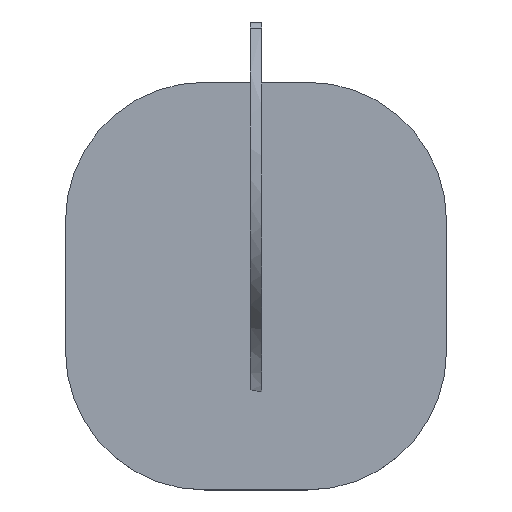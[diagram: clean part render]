
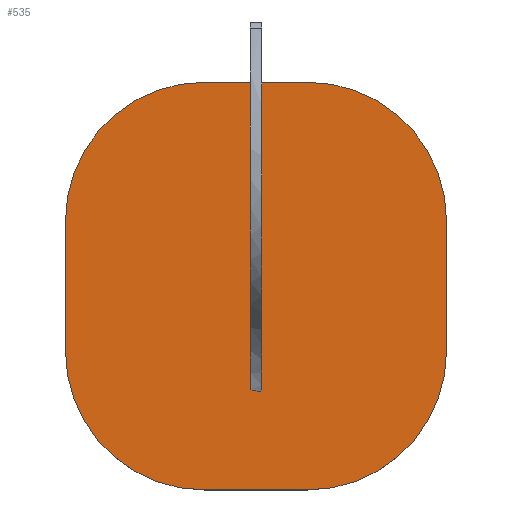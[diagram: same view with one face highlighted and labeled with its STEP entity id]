
A CAD part, top view. The second image highlights one B-rep face of the part: STEP entity #535.
In plain terms, the highlighted planar face has unit normal (0, 0, 1).
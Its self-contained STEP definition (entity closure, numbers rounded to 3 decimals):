
#13=FACE_BOUND('',#102,.T.);
#30=CIRCLE('',#587,150.);
#31=CIRCLE('',#590,150.);
#32=CIRCLE('',#593,150.);
#33=CIRCLE('',#594,150.);
#71=FACE_OUTER_BOUND('',#101,.T.);
#101=EDGE_LOOP('',(#448,#449,#450,#451,#452,#453,#454,#455));
#102=EDGE_LOOP('',(#456,#457,#458,#459));
#149=LINE('',#978,#204);
#152=LINE('',#987,#207);
#154=LINE('',#993,#209);
#155=LINE('',#995,#210);
#156=LINE('',#998,#211);
#157=LINE('',#1000,#212);
#158=LINE('',#1002,#213);
#159=LINE('',#1003,#214);
#204=VECTOR('',#703,10.);
#207=VECTOR('',#712,10.);
#209=VECTOR('',#718,10.);
#210=VECTOR('',#721,10.);
#211=VECTOR('',#722,10.);
#212=VECTOR('',#723,10.);
#213=VECTOR('',#724,10.);
#214=VECTOR('',#725,10.);
#259=VERTEX_POINT('',#970);
#260=VERTEX_POINT('',#972);
#261=VERTEX_POINT('',#976);
#262=VERTEX_POINT('',#980);
#263=VERTEX_POINT('',#981);
#264=VERTEX_POINT('',#986);
#265=VERTEX_POINT('',#990);
#266=VERTEX_POINT('',#992);
#267=VERTEX_POINT('',#996);
#268=VERTEX_POINT('',#997);
#269=VERTEX_POINT('',#999);
#270=VERTEX_POINT('',#1001);
#323=EDGE_CURVE('',#259,#260,#30,.T.);
#326=EDGE_CURVE('',#261,#259,#149,.T.);
#327=EDGE_CURVE('',#262,#263,#31,.T.);
#330=EDGE_CURVE('',#263,#264,#152,.T.);
#332=EDGE_CURVE('',#265,#261,#32,.T.);
#333=EDGE_CURVE('',#266,#265,#154,.T.);
#334=EDGE_CURVE('',#264,#266,#33,.T.);
#335=EDGE_CURVE('',#262,#260,#155,.T.);
#336=EDGE_CURVE('',#267,#268,#156,.T.);
#337=EDGE_CURVE('',#268,#269,#157,.T.);
#338=EDGE_CURVE('',#269,#270,#158,.T.);
#339=EDGE_CURVE('',#270,#267,#159,.T.);
#448=ORIENTED_EDGE('',*,*,#323,.F.);
#449=ORIENTED_EDGE('',*,*,#326,.F.);
#450=ORIENTED_EDGE('',*,*,#332,.F.);
#451=ORIENTED_EDGE('',*,*,#333,.F.);
#452=ORIENTED_EDGE('',*,*,#334,.F.);
#453=ORIENTED_EDGE('',*,*,#330,.F.);
#454=ORIENTED_EDGE('',*,*,#327,.F.);
#455=ORIENTED_EDGE('',*,*,#335,.T.);
#456=ORIENTED_EDGE('',*,*,#336,.T.);
#457=ORIENTED_EDGE('',*,*,#337,.T.);
#458=ORIENTED_EDGE('',*,*,#338,.T.);
#459=ORIENTED_EDGE('',*,*,#339,.T.);
#507=PLANE('',#592);
#535=ADVANCED_FACE('',(#71,#13),#507,.T.);
#587=AXIS2_PLACEMENT_3D('',#973,#697,#698);
#590=AXIS2_PLACEMENT_3D('',#982,#706,#707);
#592=AXIS2_PLACEMENT_3D('',#989,#714,#715);
#593=AXIS2_PLACEMENT_3D('',#991,#716,#717);
#594=AXIS2_PLACEMENT_3D('',#994,#719,#720);
#697=DIRECTION('center_axis',(0.,0.,-1.));
#698=DIRECTION('ref_axis',(0.707,-0.707,0.));
#703=DIRECTION('',(0.,-1.,0.));
#706=DIRECTION('center_axis',(0.,0.,-1.));
#707=DIRECTION('ref_axis',(-0.707,-0.707,0.));
#712=DIRECTION('',(0.,1.,0.));
#714=DIRECTION('center_axis',(0.,0.,1.));
#715=DIRECTION('ref_axis',(0.,-1.,0.));
#716=DIRECTION('center_axis',(0.,0.,-1.));
#717=DIRECTION('ref_axis',(0.707,0.707,0.));
#718=DIRECTION('',(1.,0.,0.));
#719=DIRECTION('center_axis',(0.,0.,-1.));
#720=DIRECTION('ref_axis',(-0.707,0.707,0.));
#721=DIRECTION('',(1.,0.,0.));
#722=DIRECTION('',(-1.,0.,0.));
#723=DIRECTION('',(0.,1.,0.));
#724=DIRECTION('',(1.,0.,0.));
#725=DIRECTION('',(0.,-1.,0.));
#970=CARTESIAN_POINT('',(212.,146.213,23.213));
#972=CARTESIAN_POINT('',(62.,-3.787,23.213));
#973=CARTESIAN_POINT('Origin',(62.,146.213,23.213));
#976=CARTESIAN_POINT('',(212.,287.106,23.213));
#978=CARTESIAN_POINT('',(212.,237.106,23.213));
#980=CARTESIAN_POINT('',(-50.,-3.787,23.213));
#981=CARTESIAN_POINT('',(-200.,146.213,23.213));
#982=CARTESIAN_POINT('Origin',(-50.,146.213,23.213));
#986=CARTESIAN_POINT('',(-200.,287.106,23.213));
#987=CARTESIAN_POINT('',(-200.,237.106,23.213));
#989=CARTESIAN_POINT('Origin',(0.,437.106,23.213));
#990=CARTESIAN_POINT('',(62.,437.106,23.213));
#991=CARTESIAN_POINT('Origin',(62.,287.106,23.213));
#992=CARTESIAN_POINT('',(-50.,437.106,23.213));
#993=CARTESIAN_POINT('',(0.,437.106,23.213));
#994=CARTESIAN_POINT('Origin',(-50.,287.106,23.213));
#995=CARTESIAN_POINT('',(0.,-3.787,23.213));
#996=CARTESIAN_POINT('',(12.,196.213,23.213));
#997=CARTESIAN_POINT('',(0.,196.213,23.213));
#998=CARTESIAN_POINT('',(6.,196.213,23.213));
#999=CARTESIAN_POINT('',(0.,237.106,23.213));
#1000=CARTESIAN_POINT('',(0.,316.66,23.213));
#1001=CARTESIAN_POINT('',(12.,237.106,23.213));
#1002=CARTESIAN_POINT('',(0.,237.106,23.213));
#1003=CARTESIAN_POINT('',(12.,337.106,23.213));
